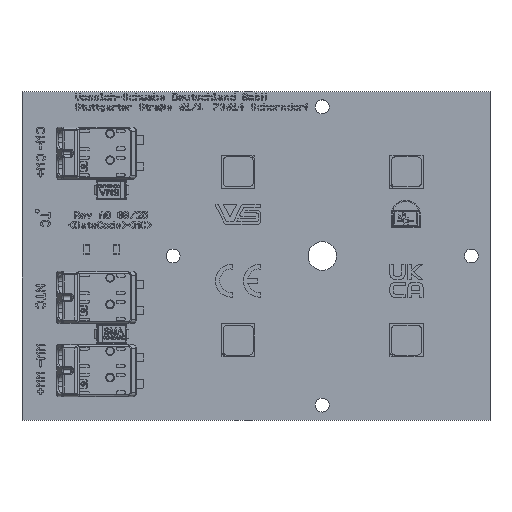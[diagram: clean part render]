
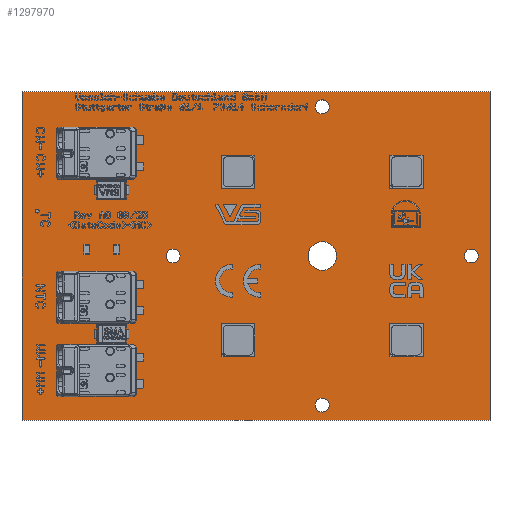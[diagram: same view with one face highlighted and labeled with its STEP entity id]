
A CAD part, top view. The second image highlights one B-rep face of the part: STEP entity #1297970.
In plain terms, the highlighted planar face has unit normal (0, 0, 1).
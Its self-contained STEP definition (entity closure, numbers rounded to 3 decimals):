
#1296830=CARTESIAN_POINT('',(0.,0.,0.));
#1296840=DIRECTION('',(0.,0.,1.));
#1296850=DIRECTION('',(1.,0.,0.));
#1296860=AXIS2_PLACEMENT_3D('',#1296830,#1296840,#1296850);
#1296870=PLANE('',#1296860);
#1296880=CARTESIAN_POINT('',(0.,49.5,0.));
#1296890=DIRECTION('',(1.,0.,0.));
#1296900=VECTOR('',#1296890,0.039);
#1296910=LINE('',#1296880,#1296900);
#1296920=CARTESIAN_POINT('',(0.,49.5,0.));
#1296930=VERTEX_POINT('',#1296920);
#1296940=CARTESIAN_POINT('',(70.6,49.5,0.));
#1296950=VERTEX_POINT('',#1296940);
#1296960=EDGE_CURVE('',#1296930,#1296950,#1296910,.T.);
#1296970=ORIENTED_EDGE('',*,*,#1296960,.F.);
#1296980=CARTESIAN_POINT('',(70.6,49.5,0.));
#1296990=DIRECTION('',(0.,-1.,0.));
#1297000=VECTOR('',#1296990,0.039);
#1297010=LINE('',#1296980,#1297000);
#1297020=CARTESIAN_POINT('',(70.6,0.,0.));
#1297030=VERTEX_POINT('',#1297020);
#1297040=EDGE_CURVE('',#1296950,#1297030,#1297010,.T.);
#1297050=ORIENTED_EDGE('',*,*,#1297040,.F.);
#1297060=CARTESIAN_POINT('',(70.6,0.,0.));
#1297070=DIRECTION('',(-1.,0.,0.));
#1297080=VECTOR('',#1297070,0.039);
#1297090=LINE('',#1297060,#1297080);
#1297100=CARTESIAN_POINT('',(0.,0.,0.));
#1297110=VERTEX_POINT('',#1297100);
#1297120=EDGE_CURVE('',#1297030,#1297110,#1297090,.T.);
#1297130=ORIENTED_EDGE('',*,*,#1297120,.F.);
#1297140=CARTESIAN_POINT('',(0.,0.,0.));
#1297150=DIRECTION('',(0.,1.,0.));
#1297160=VECTOR('',#1297150,0.039);
#1297170=LINE('',#1297140,#1297160);
#1297180=EDGE_CURVE('',#1297110,#1296930,#1297170,.T.);
#1297190=ORIENTED_EDGE('',*,*,#1297180,.F.);
#1297200=EDGE_LOOP('',(#1297190,#1297130,#1297050,#1296970));
#1297210=FACE_OUTER_BOUND('',#1297200,.T.);
#1297220=CARTESIAN_POINT('',(45.3,24.75,0.));
#1297230=DIRECTION('',(0.,0.,1.));
#1297240=DIRECTION('',(1.,0.,0.));
#1297250=AXIS2_PLACEMENT_3D('',#1297220,#1297230,#1297240);
#1297260=CIRCLE('',#1297250,2.15);
#1297270=CARTESIAN_POINT('',(47.45,24.75,0.));
#1297280=VERTEX_POINT('',#1297270);
#1297290=CARTESIAN_POINT('',(43.15,24.75,0.));
#1297300=VERTEX_POINT('',#1297290);
#1297310=EDGE_CURVE('',#1297280,#1297300,#1297260,.T.);
#1297320=ORIENTED_EDGE('',*,*,#1297310,.F.);
#1297330=EDGE_CURVE('',#1297300,#1297280,#1297260,.T.);
#1297340=ORIENTED_EDGE('',*,*,#1297330,.F.);
#1297350=EDGE_LOOP('',(#1297340,#1297320));
#1297360=FACE_BOUND('',#1297350,.T.);
#1297370=CARTESIAN_POINT('',(22.8,24.75,0.));
#1297380=DIRECTION('',(0.,0.,1.));
#1297390=DIRECTION('',(1.,0.,0.));
#1297400=AXIS2_PLACEMENT_3D('',#1297370,#1297380,#1297390);
#1297410=CIRCLE('',#1297400,1.05);
#1297420=CARTESIAN_POINT('',(23.85,24.75,0.));
#1297430=VERTEX_POINT('',#1297420);
#1297440=CARTESIAN_POINT('',(21.75,24.75,0.));
#1297450=VERTEX_POINT('',#1297440);
#1297460=EDGE_CURVE('',#1297430,#1297450,#1297410,.T.);
#1297470=ORIENTED_EDGE('',*,*,#1297460,.F.);
#1297480=EDGE_CURVE('',#1297450,#1297430,#1297410,.T.);
#1297490=ORIENTED_EDGE('',*,*,#1297480,.F.);
#1297500=EDGE_LOOP('',(#1297490,#1297470));
#1297510=FACE_BOUND('',#1297500,.T.);
#1297520=CARTESIAN_POINT('',(67.8,24.75,0.));
#1297530=DIRECTION('',(0.,0.,1.));
#1297540=DIRECTION('',(1.,0.,0.));
#1297550=AXIS2_PLACEMENT_3D('',#1297520,#1297530,#1297540);
#1297560=CIRCLE('',#1297550,1.05);
#1297570=CARTESIAN_POINT('',(68.85,24.75,0.));
#1297580=VERTEX_POINT('',#1297570);
#1297590=CARTESIAN_POINT('',(66.75,24.75,0.));
#1297600=VERTEX_POINT('',#1297590);
#1297610=EDGE_CURVE('',#1297580,#1297600,#1297560,.T.);
#1297620=ORIENTED_EDGE('',*,*,#1297610,.F.);
#1297630=EDGE_CURVE('',#1297600,#1297580,#1297560,.T.);
#1297640=ORIENTED_EDGE('',*,*,#1297630,.F.);
#1297650=EDGE_LOOP('',(#1297640,#1297620));
#1297660=FACE_BOUND('',#1297650,.T.);
#1297670=CARTESIAN_POINT('',(45.3,47.25,0.));
#1297680=DIRECTION('',(0.,0.,1.));
#1297690=DIRECTION('',(1.,0.,0.));
#1297700=AXIS2_PLACEMENT_3D('',#1297670,#1297680,#1297690);
#1297710=CIRCLE('',#1297700,1.05);
#1297720=CARTESIAN_POINT('',(46.35,47.25,0.));
#1297730=VERTEX_POINT('',#1297720);
#1297740=CARTESIAN_POINT('',(44.25,47.25,0.));
#1297750=VERTEX_POINT('',#1297740);
#1297760=EDGE_CURVE('',#1297730,#1297750,#1297710,.T.);
#1297770=ORIENTED_EDGE('',*,*,#1297760,.F.);
#1297780=EDGE_CURVE('',#1297750,#1297730,#1297710,.T.);
#1297790=ORIENTED_EDGE('',*,*,#1297780,.F.);
#1297800=EDGE_LOOP('',(#1297790,#1297770));
#1297810=FACE_BOUND('',#1297800,.T.);
#1297820=CARTESIAN_POINT('',(45.3,2.25,0.));
#1297830=DIRECTION('',(0.,0.,1.));
#1297840=DIRECTION('',(1.,0.,0.));
#1297850=AXIS2_PLACEMENT_3D('',#1297820,#1297830,#1297840);
#1297860=CIRCLE('',#1297850,1.05);
#1297870=CARTESIAN_POINT('',(46.35,2.25,0.));
#1297880=VERTEX_POINT('',#1297870);
#1297890=CARTESIAN_POINT('',(44.25,2.25,0.));
#1297900=VERTEX_POINT('',#1297890);
#1297910=EDGE_CURVE('',#1297880,#1297900,#1297860,.T.);
#1297920=ORIENTED_EDGE('',*,*,#1297910,.F.);
#1297930=EDGE_CURVE('',#1297900,#1297880,#1297860,.T.);
#1297940=ORIENTED_EDGE('',*,*,#1297930,.F.);
#1297950=EDGE_LOOP('',(#1297940,#1297920));
#1297960=FACE_BOUND('',#1297950,.T.);
#1297970=ADVANCED_FACE('',(#1297210,#1297360,#1297510,#1297660,#1297810,
#1297960),#1296870,.T.);
